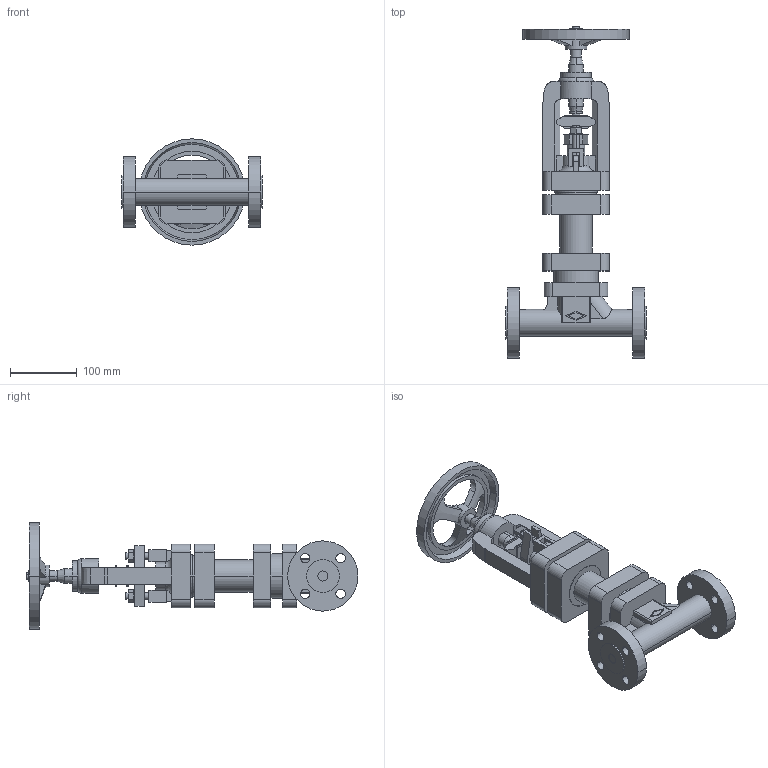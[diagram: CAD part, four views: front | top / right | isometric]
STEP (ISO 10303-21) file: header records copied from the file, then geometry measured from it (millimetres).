
FILE_DESCRIPTION(('Creo Elements/Direct Modeling STEP Export'),'2;1');
FILE_NAME('Figur146_DN15_PN63.stp','2018-01-22T 8:05:25',(''),(''),'Creo Elements/Direct Modeling STEP processor for AP214 (Solid Model)','Creo Elements/Direct Modeling 18.1C 24-Feb-2013 (C) Parametric Technology GmbH','');
FILE_SCHEMA(('AUTOMOTIVE_DESIGN { 1 0 10303 214 1 1 1 1 }'));
Length unit declared in the file: millimetre
Products named in the file (1): 1
Bounding box: 210 x 496.05 x 158.78 mm (x, y, z)
Volume: 2268169.8 mm3; surface area: 290636.9 mm2
Topology: 1 solids, 1 shells, 383 faces, 1030 edges, 680 vertices
Faces by surface type: plane 218, cylinder 137, cone 14, extrusion 8, torus 6
Entity records: 12275 total; most frequent: CARTESIAN_POINT 3064, ORIENTED_EDGE 2060, DIRECTION 1727, EDGE_CURVE 1030, VERTEX_POINT 680, VECTOR 629, LINE 623, AXIS2_PLACEMENT_3D 549
